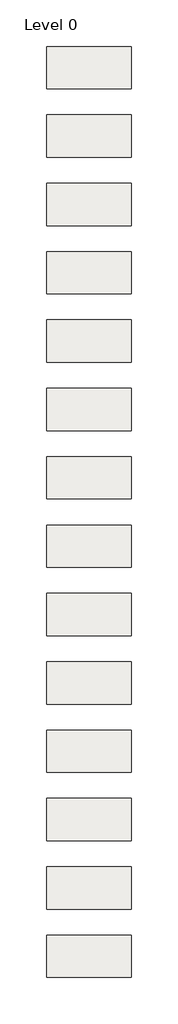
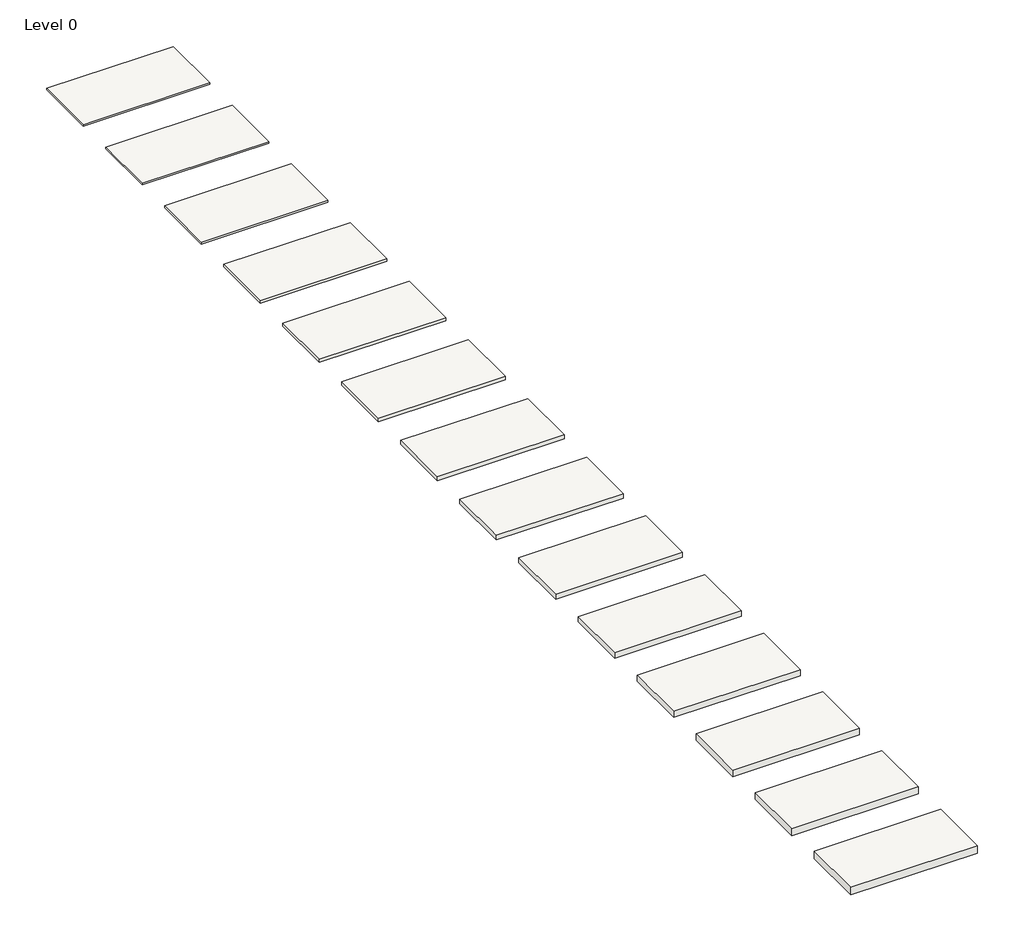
# One storey, incomplete: 14 slabs.
"""IFC4 building model written with IfcOpenShell, lengths in millimetres."""

from ifc_helpers import new_model, si_unit, frame, origin, place, context, project, spatial, polyline, outline, extrude, element, save

model = new_model("IFC4")

# Units and contexts
model_context = context("Model", 3, world=origin())
ifc_project = project(units=[si_unit("LENGTHUNIT", "METRE", prefix="MILLI")], contexts=[model_context])

# Site, building, storey
site = spatial("IfcSite", under=ifc_project)
building = spatial("IfcBuilding", under=site)
storey = spatial("IfcBuildingStorey", under=building, Name="Level 0", Elevation=0.0)

# Slabs
placement = place(None, origin())
element("IfcSlab", 1, ObjectType="Kingspan Kooltherm® K3 Floorboard - 25mm", at=placement, inside=storey, context=model_context, shape_type="SweptSolid", body=[
    extrude(outline(polyline([(-4665.0261387, 6167.7635569), (-4665.0261387, 4967.7635569), (-7065.0261387, 4967.7635569), (-7065.0261387, 6167.7635569), (-4665.0261387, 6167.7635569)])), frame((0.0, 0.0, -25.0), z_axis=(0.0, 0.0, 1.0), x_axis=(1.0, 0.0, 0.0)), (0.0, 0.0, 1.0), 25.0),
])
element("IfcSlab", 2, ObjectType="Kingspan Kooltherm® K3 Floorboard - 30mm", at=placement, inside=storey, context=model_context, shape_type="SweptSolid", body=[
    extrude(outline(polyline([(-4665.0261387, 4229.3019564), (-4665.0261387, 3029.3019564), (-7065.0261387, 3029.3019564), (-7065.0261387, 4229.3019564), (-4665.0261387, 4229.3019564)])), frame((0.0, 0.0, -30.0), z_axis=(0.0, 0.0, 1.0), x_axis=(1.0, 0.0, 0.0)), (0.0, 0.0, 1.0), 30.0),
])
element("IfcSlab", 3, ObjectType="Kingspan Kooltherm® K3 Floorboard - 40mm", at=placement, inside=storey, context=model_context, shape_type="SweptSolid", body=[
    extrude(outline(polyline([(-4665.0261387, 2290.8403559), (-4665.0261387, 1090.8403559), (-7065.0261387, 1090.8403559), (-7065.0261387, 2290.8403559), (-4665.0261387, 2290.8403559)])), frame((0.0, 0.0, -40.0), z_axis=(0.0, 0.0, 1.0), x_axis=(1.0, 0.0, 0.0)), (0.0, 0.0, 1.0), 40.0),
])
element("IfcSlab", 4, ObjectType="Kingspan Kooltherm® K3 Floorboard - 50mm", at=placement, inside=storey, context=model_context, shape_type="SweptSolid", body=[
    extrude(outline(polyline([(-4665.0261387, 352.3787554), (-4665.0261387, -847.6212446), (-7065.0261387, -847.6212446), (-7065.0261387, 352.3787554), (-4665.0261387, 352.3787554)])), frame((0.0, 0.0, -50.0), z_axis=(0.0, 0.0, 1.0), x_axis=(1.0, 0.0, 0.0)), (0.0, 0.0, 1.0), 50.0),
])
element("IfcSlab", 5, ObjectType="Kingspan Kooltherm® K3 Floorboard - 60mm", at=placement, inside=storey, context=model_context, shape_type="SweptSolid", body=[
    extrude(outline(polyline([(-4665.0261387, -1586.0828451), (-4665.0261387, -2786.0828451), (-7065.0261387, -2786.0828451), (-7065.0261387, -1586.0828451), (-4665.0261387, -1586.0828451)])), frame((0.0, 0.0, -60.0), z_axis=(0.0, 0.0, 1.0), x_axis=(1.0, 0.0, 0.0)), (0.0, 0.0, 1.0), 60.0),
])
element("IfcSlab", 6, ObjectType="Kingspan Kooltherm® K3 Floorboard - 70mm", at=placement, inside=storey, context=model_context, shape_type="SweptSolid", body=[
    extrude(outline(polyline([(-4665.0261387, -3524.5444456), (-4665.0261387, -4724.5444456), (-7065.0261387, -4724.5444456), (-7065.0261387, -3524.5444456), (-4665.0261387, -3524.5444456)])), frame((0.0, 0.0, -70.0), z_axis=(0.0, 0.0, 1.0), x_axis=(1.0, 0.0, 0.0)), (0.0, 0.0, 1.0), 70.0),
])
element("IfcSlab", 7, ObjectType="Kingspan Kooltherm® K3 Floorboard - 80mm", at=placement, inside=storey, context=model_context, shape_type="SweptSolid", body=[
    extrude(outline(polyline([(-4665.0261387, -5463.006046), (-4665.0261387, -6663.006046), (-7065.0261387, -6663.006046), (-7065.0261387, -5463.006046), (-4665.0261387, -5463.006046)])), frame((0.0, 0.0, -80.0), z_axis=(0.0, 0.0, 1.0), x_axis=(1.0, 0.0, 0.0)), (0.0, 0.0, 1.0), 80.0),
])
element("IfcSlab", 8, ObjectType="Kingspan Kooltherm® K3 Floorboard - 90mm", at=placement, inside=storey, context=model_context, shape_type="SweptSolid", body=[
    extrude(outline(polyline([(-4665.0261387, -7401.4676465), (-4665.0261387, -8601.4676465), (-7065.0261387, -8601.4676465), (-7065.0261387, -7401.4676465), (-4665.0261387, -7401.4676465)])), frame((0.0, 0.0, -90.0), z_axis=(0.0, 0.0, 1.0), x_axis=(1.0, 0.0, 0.0)), (0.0, 0.0, 1.0), 90.0),
])
element("IfcSlab", 9, ObjectType="Kingspan Kooltherm® K3 Floorboard - 100mm", at=placement, inside=storey, context=model_context, shape_type="SweptSolid", body=[
    extrude(outline(polyline([(-4665.0261387, -9339.929247), (-4665.0261387, -10539.929247), (-7065.0261387, -10539.929247), (-7065.0261387, -9339.929247), (-4665.0261387, -9339.929247)])), frame((0.0, 0.0, -100.0), z_axis=(0.0, 0.0, 1.0), x_axis=(1.0, 0.0, 0.0)), (0.0, 0.0, 1.0), 100.0),
])
element("IfcSlab", 10, ObjectType="Kingspan Kooltherm® K3 Floorboard - 110mm", at=placement, inside=storey, context=model_context, shape_type="SweptSolid", body=[
    extrude(outline(polyline([(-4665.0261387, -11278.3908475), (-4665.0261387, -12478.3908475), (-7065.0261387, -12478.3908475), (-7065.0261387, -11278.3908475), (-4665.0261387, -11278.3908475)])), frame((0.0, 0.0, -110.0), z_axis=(0.0, 0.0, 1.0), x_axis=(1.0, 0.0, 0.0)), (0.0, 0.0, 1.0), 110.0),
])
element("IfcSlab", 11, ObjectType="Kingspan Kooltherm® K3 Floorboard - 120mm", at=placement, inside=storey, context=model_context, shape_type="SweptSolid", body=[
    extrude(outline(polyline([(-4665.0261387, -13216.852448), (-4665.0261387, -14416.852448), (-7065.0261387, -14416.852448), (-7065.0261387, -13216.852448), (-4665.0261387, -13216.852448)])), frame((0.0, 0.0, -120.0), z_axis=(0.0, 0.0, 1.0), x_axis=(1.0, 0.0, 0.0)), (0.0, 0.0, 1.0), 120.0),
])
element("IfcSlab", 12, ObjectType="Kingspan Kooltherm® K3 Floorboard - 130mm", at=placement, inside=storey, context=model_context, shape_type="SweptSolid", body=[
    extrude(outline(polyline([(-4665.0261387, -15155.3140485), (-4665.0261387, -16355.3140485), (-7065.0261387, -16355.3140485), (-7065.0261387, -15155.3140485), (-4665.0261387, -15155.3140485)])), frame((0.0, 0.0, -130.0), z_axis=(0.0, 0.0, 1.0), x_axis=(1.0, 0.0, 0.0)), (0.0, 0.0, 1.0), 130.0),
])
element("IfcSlab", 13, ObjectType="Kingspan Kooltherm® K3 Floorboard - 140mm", at=placement, inside=storey, context=model_context, shape_type="SweptSolid", body=[
    extrude(outline(polyline([(-4665.0261387, -17093.775649), (-4665.0261387, -18293.775649), (-7065.0261387, -18293.775649), (-7065.0261387, -17093.775649), (-4665.0261387, -17093.775649)])), frame((0.0, 0.0, -140.0), z_axis=(0.0, 0.0, 1.0), x_axis=(1.0, 0.0, 0.0)), (0.0, 0.0, 1.0), 140.0),
])
element("IfcSlab", 14, ObjectType="Kingspan Kooltherm® K3 Floorboard - 150mm", at=placement, inside=storey, context=model_context, shape_type="SweptSolid", body=[
    extrude(outline(polyline([(-4665.0261387, -19032.2372495), (-4665.0261387, -20232.2372495), (-7065.0261387, -20232.2372495), (-7065.0261387, -19032.2372495), (-4665.0261387, -19032.2372495)])), frame((0.0, 0.0, -150.0), z_axis=(0.0, 0.0, 1.0), x_axis=(1.0, 0.0, 0.0)), (0.0, 0.0, 1.0), 150.0),
])

save(model, "model.ifc")
